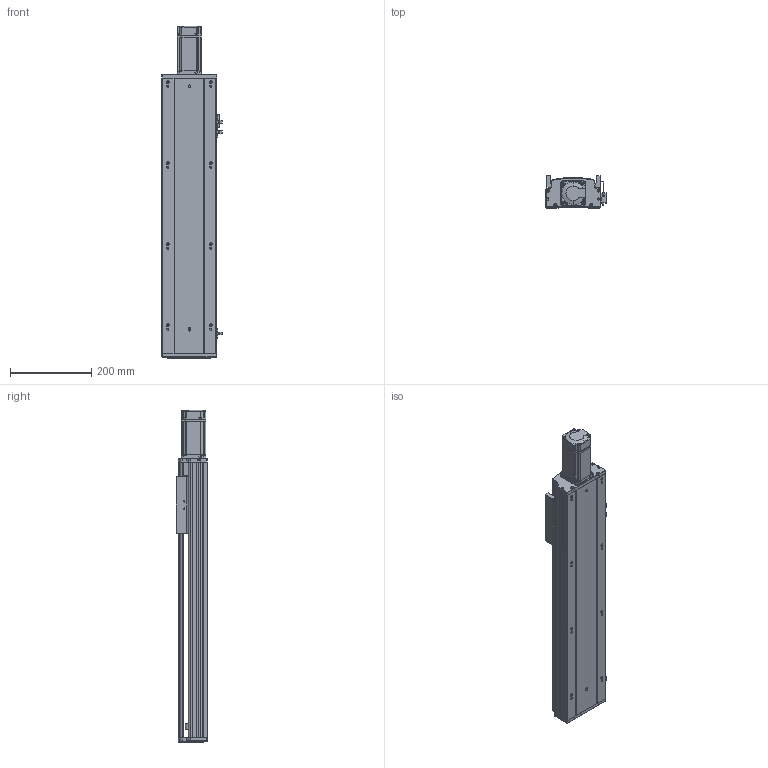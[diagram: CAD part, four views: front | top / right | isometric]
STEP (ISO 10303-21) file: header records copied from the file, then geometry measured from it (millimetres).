
FILE_DESCRIPTION (( 'STEP AP203' ), '1' );
FILE_NAME ('RY140Q-L2010-700-MK.SLDASM_0450.step', '2021-05-27T03:21:48', ( '盈信电脑' ), ( '东莞市道滘镇水果街19号' ), 'SwSTEP 2.0', 'SolidWorks 2016', '' );
FILE_SCHEMA (( 'CONFIG_CONTROL_DESIGN' ));
Length unit declared in the file: millimetre
Products named in the file (14): RY140ヶ裔啣; 鞠褒坶踡蹟譫BK12 ; 侂狟400W侜督萇儂; 滅袉蝶18-10; RY140綴裔啣; RY120外置感应片(140共用）; RY140Q-700-MK倰第菁釱_0450; RY140Q臏賑輸(20佪裝-J); RY140Q萇儂傷盓傅釱FK12(80.5酗M5); RY140Q-L2010-700-MK.SLDASM_0450; 滅袉蝶18-15; 15; RY140Q-700-MK倰第奻裔啣_0450; 覜茼ん672
Assembly tree (16 placements, depth 3):
  RY140Q-L2010-700-MK.SLDASM_0450
    RY140Q-700-MK倰第菁釱_0450
    RY140Q臏賑輸(20佪裝-J)
    RY140Q-700-MK倰第奻裔啣_0450
    RY140ヶ裔啣
    侂狟400W侜督萇儂
      15
    鞠褒坶踡蹟譫BK12 
    RY140綴裔啣
    覜茼ん672  x3
    RY120外置感应片(140共用）
    RY140Q萇儂傷盓傅釱FK12(80.5酗M5)
    滅袉蝶18-10
    滅袉蝶18-15  x2
Bounding box: 148.7 x 78 x 819.5 mm (x, y, z)
Volume: 2529491.7 mm3; surface area: 869203.5 mm2
Topology: 15 solids, 15 shells, 2015 faces, 5538 edges, 3557 vertices
Faces by surface type: plane 1078, cylinder 676, cone 176, bspline 85
Entity records: 66493 total; most frequent: CARTESIAN_POINT 15954, ORIENTED_EDGE 10416, DIRECTION 9890, EDGE_CURVE 5208, VERTEX_POINT 3417, VECTOR 3406, LINE 3406, AXIS2_PLACEMENT_3D 3242
